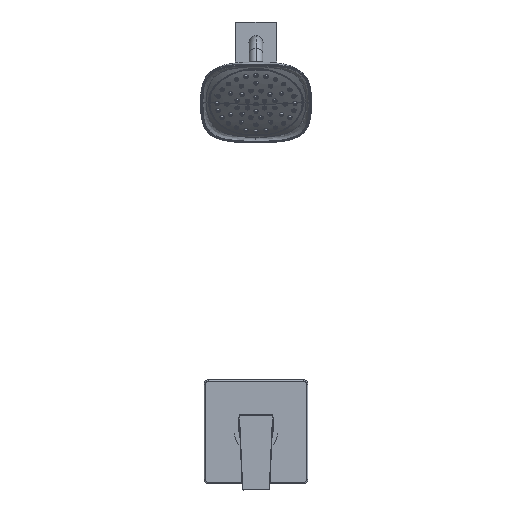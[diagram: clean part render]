
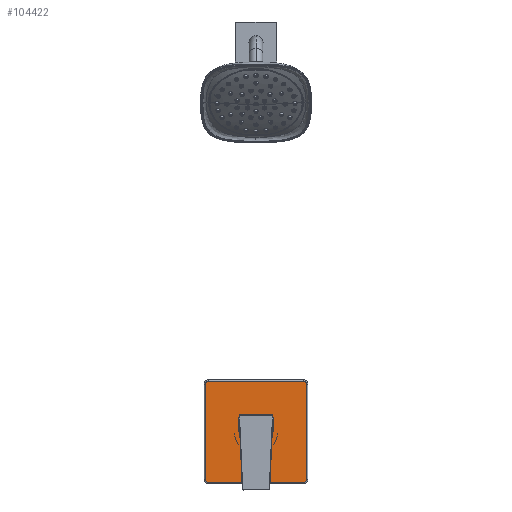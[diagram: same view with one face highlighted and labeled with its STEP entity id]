
A CAD part, top view. The second image highlights one B-rep face of the part: STEP entity #104422.
In plain terms, the highlighted planar face has unit normal (0, 0, 1).
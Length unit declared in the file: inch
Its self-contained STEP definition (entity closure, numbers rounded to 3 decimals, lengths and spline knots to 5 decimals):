
#615 = VERTEX_POINT ( 'NONE', #61350 ) ;
#702 = VECTOR ( 'NONE', #17545, 39.37008 ) ;
#1259 = CIRCLE ( 'NONE', #65468, 0.17 ) ;
#1366 = DIRECTION ( 'NONE',  ( 0., 1., 0. ) ) ;
#1417 = CARTESIAN_POINT ( 'NONE',  ( -0.125, -1.27, 0.48 ) ) ;
#2006 = CARTESIAN_POINT ( 'NONE',  ( 0., 0., 0.48 ) ) ;
#2989 = EDGE_CURVE ( 'NONE', #107982, #45343, #69792, .T. ) ;
#3648 = PLANE ( 'NONE',  #74675 ) ;
#3912 = CARTESIAN_POINT ( 'NONE',  ( 2.875, 3.045, 0.48 ) ) ;
#4607 = EDGE_CURVE ( 'NONE', #52919, #31354, #110242, .T. ) ;
#5099 = DIRECTION ( 'NONE',  ( 1., 0., 0. ) ) ;
#5274 = VECTOR ( 'NONE', #53951, 39.37008 ) ;
#7474 = EDGE_CURVE ( 'NONE', #59339, #107982, #50003, .T. ) ;
#11253 = DIRECTION ( 'NONE',  ( 1., 0., 0. ) ) ;
#11359 = CARTESIAN_POINT ( 'NONE',  ( -2.875, 3.045, 0.48 ) ) ;
#11564 = EDGE_CURVE ( 'NONE', #31354, #48135, #39694, .T. ) ;
#12411 = CARTESIAN_POINT ( 'NONE',  ( -2.875, -2.875, 0.48 ) ) ;
#12874 = CARTESIAN_POINT ( 'NONE',  ( 0.125, -1.27, 0.48 ) ) ;
#13718 = DIRECTION ( 'NONE',  ( 0., 0., 1. ) ) ;
#14347 = EDGE_LOOP ( 'NONE', ( #85802, #111040, #78742, #97426 ) ) ;
#15628 = VERTEX_POINT ( 'NONE', #11359 ) ;
#17227 = CARTESIAN_POINT ( 'NONE',  ( -0.125, -1.01785, 0.48 ) ) ;
#17545 = DIRECTION ( 'NONE',  ( 0., -1., 0. ) ) ;
#19168 = AXIS2_PLACEMENT_3D ( 'NONE', #31353, #22155, #48563 ) ;
#19729 = CARTESIAN_POINT ( 'NONE',  ( 0.125, -0.95354, 0.48 ) ) ;
#19745 = VERTEX_POINT ( 'NONE', #95873 ) ;
#19864 = DIRECTION ( 'NONE',  ( 0., 0., 1. ) ) ;
#20037 = EDGE_CURVE ( 'NONE', #19745, #615, #61449, .T. ) ;
#21307 = VECTOR ( 'NONE', #40559, 39.37008 ) ;
#21642 = LINE ( 'NONE', #100888, #21307 ) ;
#22155 = DIRECTION ( 'NONE',  ( 0., 0., 1. ) ) ;
#22829 = VECTOR ( 'NONE', #1366, 39.37008 ) ;
#23528 = DIRECTION ( 'NONE',  ( 0., 1., 0. ) ) ;
#24629 = EDGE_CURVE ( 'NONE', #109927, #19745, #1259, .T. ) ;
#25294 = EDGE_CURVE ( 'NONE', #103060, #109927, #21642, .T. ) ;
#26062 = ORIENTED_EDGE ( 'NONE', *, *, #24629, .T. ) ;
#27442 = CARTESIAN_POINT ( 'NONE',  ( 3.045, -2.875, 0.48 ) ) ;
#29860 = AXIS2_PLACEMENT_3D ( 'NONE', #2006, #97358, #44511 ) ;
#30080 = DIRECTION ( 'NONE',  ( 0., 0., 1. ) ) ;
#31353 = CARTESIAN_POINT ( 'NONE',  ( 2.875, -2.875, 0.48 ) ) ;
#31354 = VERTEX_POINT ( 'NONE', #34717 ) ;
#32656 = CARTESIAN_POINT ( 'NONE',  ( -2.875, 2.875, 0.48 ) ) ;
#34717 = CARTESIAN_POINT ( 'NONE',  ( 3.045, 2.875, 0.48 ) ) ;
#35468 = ORIENTED_EDGE ( 'NONE', *, *, #95105, .T. ) ;
#38185 = ORIENTED_EDGE ( 'NONE', *, *, #4607, .T. ) ;
#39694 = CIRCLE ( 'NONE', #43307, 0.17 ) ;
#40150 = CARTESIAN_POINT ( 'NONE',  ( 0., -1.27, 0.48 ) ) ;
#40559 = DIRECTION ( 'NONE',  ( 0., -1., 0. ) ) ;
#40919 = FACE_BOUND ( 'NONE', #14347, .T. ) ;
#43307 = AXIS2_PLACEMENT_3D ( 'NONE', #70677, #113212, #60943 ) ;
#44511 = DIRECTION ( 'NONE',  ( 1., 0., 0. ) ) ;
#45060 = EDGE_LOOP ( 'NONE', ( #105272, #77310, #26062, #109592, #35468, #38185, #96578, #111894 ) ) ;
#45343 = VERTEX_POINT ( 'NONE', #73970 ) ;
#48135 = VERTEX_POINT ( 'NONE', #3912 ) ;
#48563 = DIRECTION ( 'NONE',  ( 1., 0., 0. ) ) ;
#48933 = VECTOR ( 'NONE', #70874, 39.37008 ) ;
#50003 = CIRCLE ( 'NONE', #29860, 1.0255 ) ;
#50162 = AXIS2_PLACEMENT_3D ( 'NONE', #32656, #13718, #5099 ) ;
#52919 = VERTEX_POINT ( 'NONE', #27442 ) ;
#53610 = LINE ( 'NONE', #19729, #22829 ) ;
#53951 = DIRECTION ( 'NONE',  ( 1., 0., 0. ) ) ;
#56461 = DIRECTION ( 'NONE',  ( 1., 0., 0. ) ) ;
#57248 = CARTESIAN_POINT ( 'NONE',  ( 0.125, -1.01785, 0.48 ) ) ;
#58310 = EDGE_CURVE ( 'NONE', #45343, #97224, #96344, .T. ) ;
#59339 = VERTEX_POINT ( 'NONE', #57248 ) ;
#60943 = DIRECTION ( 'NONE',  ( 1., 0., 0. ) ) ;
#61350 = CARTESIAN_POINT ( 'NONE',  ( 2.875, -3.045, 0.48 ) ) ;
#61449 = LINE ( 'NONE', #63129, #5274 ) ;
#61878 = DIRECTION ( 'NONE',  ( 1., 0., 0. ) ) ;
#63129 = CARTESIAN_POINT ( 'NONE',  ( -2.875, -3.045, 0.48 ) ) ;
#65468 = AXIS2_PLACEMENT_3D ( 'NONE', #12411, #19864, #11253 ) ;
#69792 = LINE ( 'NONE', #1417, #702 ) ;
#70265 = CARTESIAN_POINT ( 'NONE',  ( -3.045, -2.875, 0.48 ) ) ;
#70308 = CIRCLE ( 'NONE', #19168, 0.17 ) ;
#70677 = CARTESIAN_POINT ( 'NONE',  ( 2.875, 2.875, 0.48 ) ) ;
#70874 = DIRECTION ( 'NONE',  ( -1., 0., 0. ) ) ;
#71994 = LINE ( 'NONE', #80066, #48933 ) ;
#73970 = CARTESIAN_POINT ( 'NONE',  ( -0.125, -1.27, 0.48 ) ) ;
#74675 = AXIS2_PLACEMENT_3D ( 'NONE', #108731, #30080, #56461 ) ;
#75171 = EDGE_CURVE ( 'NONE', #97224, #59339, #53610, .T. ) ;
#75269 = CARTESIAN_POINT ( 'NONE',  ( -3.045, 2.875, 0.48 ) ) ;
#75945 = FACE_OUTER_BOUND ( 'NONE', #45060, .T. ) ;
#77310 = ORIENTED_EDGE ( 'NONE', *, *, #25294, .T. ) ;
#78742 = ORIENTED_EDGE ( 'NONE', *, *, #75171, .F. ) ;
#80066 = CARTESIAN_POINT ( 'NONE',  ( -2.875, 3.045, 0.48 ) ) ;
#85802 = ORIENTED_EDGE ( 'NONE', *, *, #2989, .F. ) ;
#92657 = AXIS2_PLACEMENT_3D ( 'NONE', #40150, #111916, #61878 ) ;
#95105 = EDGE_CURVE ( 'NONE', #615, #52919, #70308, .T. ) ;
#95873 = CARTESIAN_POINT ( 'NONE',  ( -2.875, -3.045, 0.48 ) ) ;
#96344 = CIRCLE ( 'NONE', #92657, 0.125 ) ;
#96378 = EDGE_CURVE ( 'NONE', #15628, #103060, #99710, .T. ) ;
#96578 = ORIENTED_EDGE ( 'NONE', *, *, #11564, .T. ) ;
#97224 = VERTEX_POINT ( 'NONE', #12874 ) ;
#97358 = DIRECTION ( 'NONE',  ( 0., 0., 1. ) ) ;
#97426 = ORIENTED_EDGE ( 'NONE', *, *, #58310, .F. ) ;
#99710 = CIRCLE ( 'NONE', #50162, 0.17 ) ;
#100888 = CARTESIAN_POINT ( 'NONE',  ( -3.045, -2.875, 0.48 ) ) ;
#102202 = CARTESIAN_POINT ( 'NONE',  ( 3.045, -2.875, 0.48 ) ) ;
#103060 = VERTEX_POINT ( 'NONE', #75269 ) ;
#103663 = EDGE_CURVE ( 'NONE', #48135, #15628, #71994, .T. ) ;
#104422 = ADVANCED_FACE ( 'NONE', ( #40919, #75945 ), #3648, .T. ) ;
#105272 = ORIENTED_EDGE ( 'NONE', *, *, #96378, .T. ) ;
#107982 = VERTEX_POINT ( 'NONE', #17227 ) ;
#108731 = CARTESIAN_POINT ( 'NONE',  ( -2.875, -2.875, 0.48 ) ) ;
#109592 = ORIENTED_EDGE ( 'NONE', *, *, #20037, .T. ) ;
#109927 = VERTEX_POINT ( 'NONE', #70265 ) ;
#110095 = VECTOR ( 'NONE', #23528, 39.37008 ) ;
#110242 = LINE ( 'NONE', #102202, #110095 ) ;
#111040 = ORIENTED_EDGE ( 'NONE', *, *, #7474, .F. ) ;
#111894 = ORIENTED_EDGE ( 'NONE', *, *, #103663, .T. ) ;
#111916 = DIRECTION ( 'NONE',  ( 0., 0., 1. ) ) ;
#113212 = DIRECTION ( 'NONE',  ( 0., 0., 1. ) ) ;
